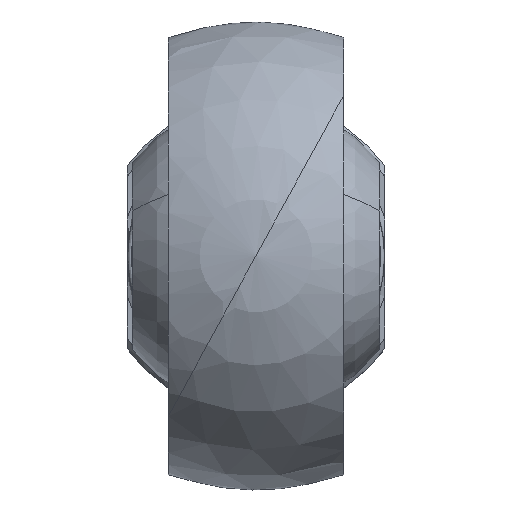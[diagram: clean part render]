
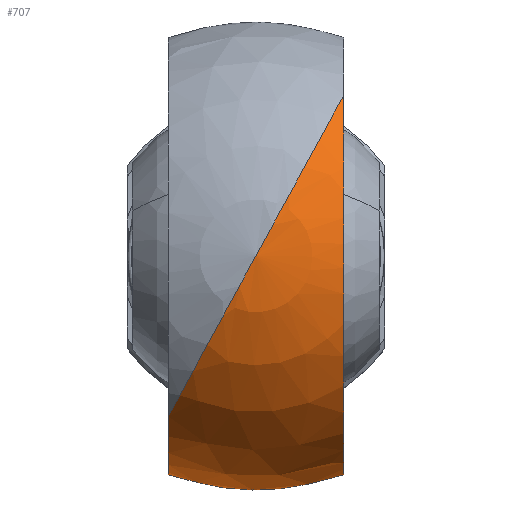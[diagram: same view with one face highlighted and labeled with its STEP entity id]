
A CAD part, top view. The second image highlights one B-rep face of the part: STEP entity #707.
In plain terms, the highlighted spherical face has radius 20.15 mm.
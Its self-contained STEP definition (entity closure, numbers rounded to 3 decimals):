
#283=CARTESIAN_POINT('Vertex',(7.5,-14.764,-11.48)) ;
#286=CARTESIAN_POINT('Axis2P3D Location',(0.,0.,-11.48)) ;
#290=CARTESIAN_POINT('Vertex',(-7.5,-14.764,-11.48)) ;
#562=CARTESIAN_POINT('Vertex',(7.5,13.729,12.7)) ;
#566=CARTESIAN_POINT('Control Point',(7.5,13.729,12.7)) ;
#567=CARTESIAN_POINT('Control Point',(7.5,13.262,13.205)) ;
#568=CARTESIAN_POINT('Control Point',(7.5,12.774,13.686)) ;
#569=CARTESIAN_POINT('Control Point',(7.5,12.268,14.14)) ;
#570=CARTESIAN_POINT('Control Point',(7.5,11.126,15.077)) ;
#571=CARTESIAN_POINT('Control Point',(7.5,9.94,15.87)) ;
#572=CARTESIAN_POINT('Control Point',(7.5,9.289,16.257)) ;
#573=CARTESIAN_POINT('Control Point',(7.5,8.178,16.846)) ;
#574=CARTESIAN_POINT('Control Point',(7.5,7.112,17.307)) ;
#575=CARTESIAN_POINT('Control Point',(7.5,6.676,17.479)) ;
#576=CARTESIAN_POINT('Control Point',(7.5,5.796,17.796)) ;
#577=CARTESIAN_POINT('Control Point',(7.5,4.974,18.036)) ;
#578=CARTESIAN_POINT('Control Point',(7.5,4.565,18.144)) ;
#579=CARTESIAN_POINT('Control Point',(7.5,3.706,18.344)) ;
#580=CARTESIAN_POINT('Control Point',(7.5,2.909,18.482)) ;
#581=CARTESIAN_POINT('Control Point',(7.5,2.494,18.542)) ;
#582=CARTESIAN_POINT('Control Point',(7.5,1.601,18.647)) ;
#583=CARTESIAN_POINT('Control Point',(7.5,0.75,18.696)) ;
#584=CARTESIAN_POINT('Control Point',(7.5,0.289,18.708)) ;
#585=CARTESIAN_POINT('Control Point',(7.5,-0.647,18.706)) ;
#586=CARTESIAN_POINT('Control Point',(7.5,-1.603,18.643)) ;
#587=CARTESIAN_POINT('Control Point',(7.5,-2.103,18.594)) ;
#588=CARTESIAN_POINT('Control Point',(7.5,-3.039,18.471)) ;
#589=CARTESIAN_POINT('Control Point',(7.5,-4.057,18.266)) ;
#590=CARTESIAN_POINT('Control Point',(7.5,-4.532,18.155)) ;
#591=CARTESIAN_POINT('Control Point',(7.5,-5.441,17.911)) ;
#592=CARTESIAN_POINT('Control Point',(7.5,-6.426,17.573)) ;
#593=CARTESIAN_POINT('Control Point',(7.5,-6.887,17.399)) ;
#594=CARTESIAN_POINT('Control Point',(7.5,-7.954,16.953)) ;
#595=CARTESIAN_POINT('Control Point',(7.5,-9.071,16.378)) ;
#596=CARTESIAN_POINT('Control Point',(7.5,-9.699,16.017)) ;
#597=CARTESIAN_POINT('Control Point',(7.5,-10.82,15.293)) ;
#598=CARTESIAN_POINT('Control Point',(7.5,-11.909,14.44)) ;
#599=CARTESIAN_POINT('Control Point',(7.5,-12.379,14.039)) ;
#600=CARTESIAN_POINT('Control Point',(7.5,-13.339,13.15)) ;
#601=CARTESIAN_POINT('Control Point',(7.5,-14.229,12.167)) ;
#602=CARTESIAN_POINT('Control Point',(7.5,-14.672,11.629)) ;
#603=CARTESIAN_POINT('Control Point',(7.5,-15.784,10.143)) ;
#604=CARTESIAN_POINT('Control Point',(7.5,-16.71,8.52)) ;
#605=CARTESIAN_POINT('Control Point',(7.5,-17.207,7.465)) ;
#606=CARTESIAN_POINT('Control Point',(7.5,-18.007,5.356)) ;
#607=CARTESIAN_POINT('Control Point',(7.5,-18.483,3.152)) ;
#608=CARTESIAN_POINT('Control Point',(7.5,-18.635,2.072)) ;
#609=CARTESIAN_POINT('Control Point',(7.5,-18.781,-0.108)) ;
#610=CARTESIAN_POINT('Control Point',(7.5,-18.61,-2.287)) ;
#611=CARTESIAN_POINT('Control Point',(7.5,-18.445,-3.372)) ;
#612=CARTESIAN_POINT('Control Point',(7.5,-17.961,-5.487)) ;
#613=CARTESIAN_POINT('Control Point',(7.5,-17.179,-7.509)) ;
#614=CARTESIAN_POINT('Control Point',(7.5,-16.721,-8.479)) ;
#615=CARTESIAN_POINT('Control Point',(7.5,-16.053,-9.667)) ;
#616=CARTESIAN_POINT('Control Point',(7.5,-15.285,-10.783)) ;
#617=CARTESIAN_POINT('Control Point',(7.5,-15.115,-11.019)) ;
#618=CARTESIAN_POINT('Control Point',(7.5,-14.942,-11.252)) ;
#619=CARTESIAN_POINT('Control Point',(7.5,-14.764,-11.48)) ;
#667=CARTESIAN_POINT('Axis2P3D Location',(0.,0.,0.)) ;
#672=CARTESIAN_POINT('Axis2P3D Location',(0.,0.,0.)) ;
#676=CARTESIAN_POINT('Vertex',(0.,0.,20.15)) ;
#679=CARTESIAN_POINT('Axis2P3D Location',(0.,0.,0.)) ;
#683=CARTESIAN_POINT('Vertex',(-7.5,-13.729,12.7)) ;
#687=CARTESIAN_POINT('Control Point',(-7.5,-13.729,12.7)) ;
#688=CARTESIAN_POINT('Control Point',(-7.5,-14.998,11.328)) ;
#689=CARTESIAN_POINT('Control Point',(-7.5,-16.115,9.777)) ;
#690=CARTESIAN_POINT('Control Point',(-7.5,-17.025,8.087)) ;
#691=CARTESIAN_POINT('Control Point',(-7.5,-18.106,5.274)) ;
#692=CARTESIAN_POINT('Control Point',(-7.5,-18.606,2.317)) ;
#693=CARTESIAN_POINT('Control Point',(-7.5,-18.71,1.228)) ;
#694=CARTESIAN_POINT('Control Point',(-7.5,-18.783,-2.155)) ;
#695=CARTESIAN_POINT('Control Point',(-7.5,-18.097,-5.5)) ;
#696=CARTESIAN_POINT('Control Point',(-7.5,-17.288,-7.676)) ;
#697=CARTESIAN_POINT('Control Point',(-7.5,-16.154,-9.693)) ;
#698=CARTESIAN_POINT('Control Point',(-7.5,-14.764,-11.48)) ;
#287=DIRECTION('Axis2P3D Direction',(-0.,0.,1.)) ;
#668=DIRECTION('Axis2P3D Direction',(0.,0.,-1.)) ;
#669=DIRECTION('Axis2P3D XDirection',(0.479,0.878,0.)) ;
#673=DIRECTION('Axis2P3D Direction',(-0.878,0.479,0.)) ;
#680=DIRECTION('Axis2P3D Direction',(0.878,-0.479,0.)) ;
#288=AXIS2_PLACEMENT_3D('Circle Axis2P3D',#286,#287,$) ;
#670=AXIS2_PLACEMENT_3D('Sphere Axis2P3D',#667,#668,#669) ;
#674=AXIS2_PLACEMENT_3D('Circle Axis2P3D',#672,#673,$) ;
#681=AXIS2_PLACEMENT_3D('Circle Axis2P3D',#679,#680,$) ;
#701=ORIENTED_EDGE('',*,*,#620,.F.) ;
#702=ORIENTED_EDGE('',*,*,#678,.T.) ;
#703=ORIENTED_EDGE('',*,*,#685,.F.) ;
#704=ORIENTED_EDGE('',*,*,#699,.T.) ;
#705=ORIENTED_EDGE('',*,*,#292,.F.) ;
#707=ADVANCED_FACE('PartBody',(#706),#671,.T.) ;
#565=B_SPLINE_CURVE_WITH_KNOTS('',5,(#566,#567,#568,#569,#570,#571,#572,#573,#574,#575,#576,#577,#578,#579,#580,#581,#582,#583,#584,#585,#586,#587,#588,#589,#590,#591,#592,#593,#594,#595,#596,#597,#598,#599,#600,#601,#602,#603,#604,#605,#606,#607,#608,#609,#610,#611,#612,#613,#614,#615,#616,#617,#618,#619),.UNSPECIFIED.,.F.,.U.,(6,3,3,3,3,3,3,3,3,3,3,3,3,3,3,3,3,6),(0.,4.949,10.878,15.177,19.799,25.235,31.85,38.72,44.275,48.871,54.601,59.129,64.109,72.332,80.013,87.745,95.312,97.379),.UNSPECIFIED.) ;
#686=B_SPLINE_CURVE_WITH_KNOTS('',5,(#687,#688,#689,#690,#691,#692,#693,#694,#695,#696,#697,#698),.UNSPECIFIED.,.F.,.U.,(6,3,3,6),(0.,13.443,21.149,37.309),.UNSPECIFIED.) ;
#289=CIRCLE('generated circle',#288,16.56) ;
#675=CIRCLE('generated circle',#674,20.15) ;
#682=CIRCLE('generated circle',#681,20.15) ;
#292=EDGE_CURVE('',#284,#291,#289,.F.) ;
#620=EDGE_CURVE('',#563,#284,#565,.T.) ;
#678=EDGE_CURVE('',#563,#677,#675,.F.) ;
#685=EDGE_CURVE('',#684,#677,#682,.F.) ;
#699=EDGE_CURVE('',#684,#291,#686,.T.) ;
#700=EDGE_LOOP('',(#701,#702,#703,#704,#705)) ;
#706=FACE_OUTER_BOUND('',#700,.T.) ;
#671=SPHERICAL_SURFACE('',#670,20.15) ;
#284=VERTEX_POINT('',#283) ;
#291=VERTEX_POINT('',#290) ;
#563=VERTEX_POINT('',#562) ;
#677=VERTEX_POINT('',#676) ;
#684=VERTEX_POINT('',#683) ;
